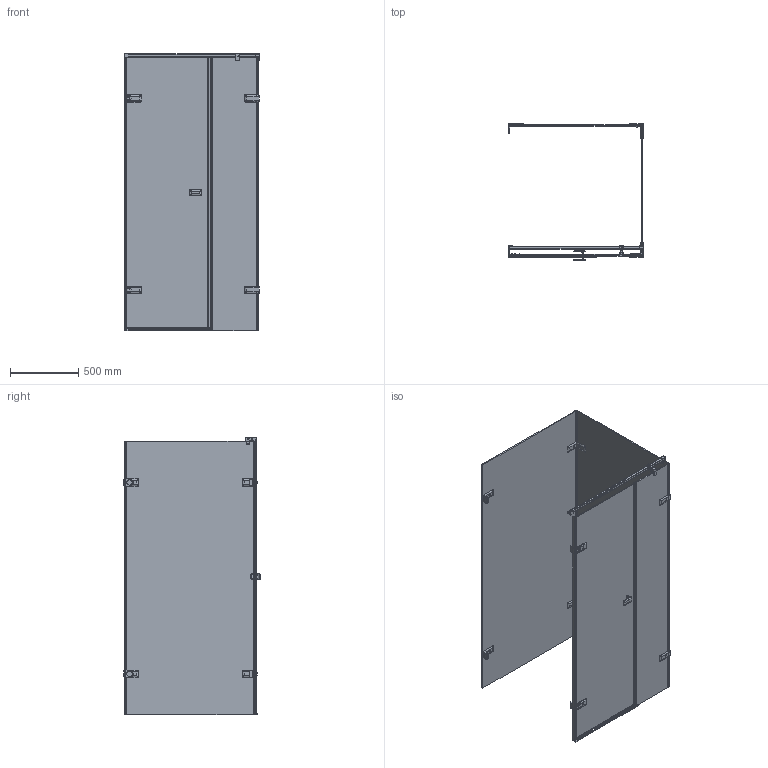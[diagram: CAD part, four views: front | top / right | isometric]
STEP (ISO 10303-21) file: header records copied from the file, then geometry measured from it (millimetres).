
FILE_DESCRIPTION(/* description */ (''),/* implementation_level */ '2;1');
FILE_NAME(/* name */ 'D:\8\TREND RECTAN GK-884U\TREND RECTAN GK-884U левая модель\TREND RECTAN GK-884U ЛЕВАЯ-3D.stp',/* time_stamp */ '2020-08-06T18:21:55+03:00',/* author */ ('User'),/* organization */ (''),/* preprocessor_version */ 'ST-DEVELOPER v15.2',/* originating_system */ 'Autodesk Inventor 2014',/* authorisation */ '');
FILE_SCHEMA (('AUTOMOTIVE_DESIGN { 1 0 10303 214 3 1 1 }'));
Products named in the file (1): TREND RECTAN GK-884U ЛЕВАЯ-3D
Bounding box: 989 x 1000.6 x 2032 mm (x, y, z)
Volume: 45259934.7 mm3; surface area: 12273512.7 mm2
Topology: 4 solids, 32 shells, 1436 faces, 3744 edges, 2425 vertices
Faces by surface type: plane 795, cylinder 428, bspline 110, torus 59, cone 27, sphere 17
Full cylindrical faces by diameter (mm): 4 x2, 4.134 x2, 4.2 x11, 4.917 x4, 5 x6, 5.2 x3, 6 x2, 7.2 x4, 8 x2, 11 x2, 12 x2, 13 x14, 16 x14, 28 x2, 28.5 x2, 40 x2
Entity records: 49629 total; most frequent: CARTESIAN_POINT 14116, DIRECTION 6919, ORIENTED_EDGE 6878, EDGE_CURVE 3437, AXIS2_PLACEMENT_3D 2323, LINE 2273, VECTOR 2273, VERTEX_POINT 2206
